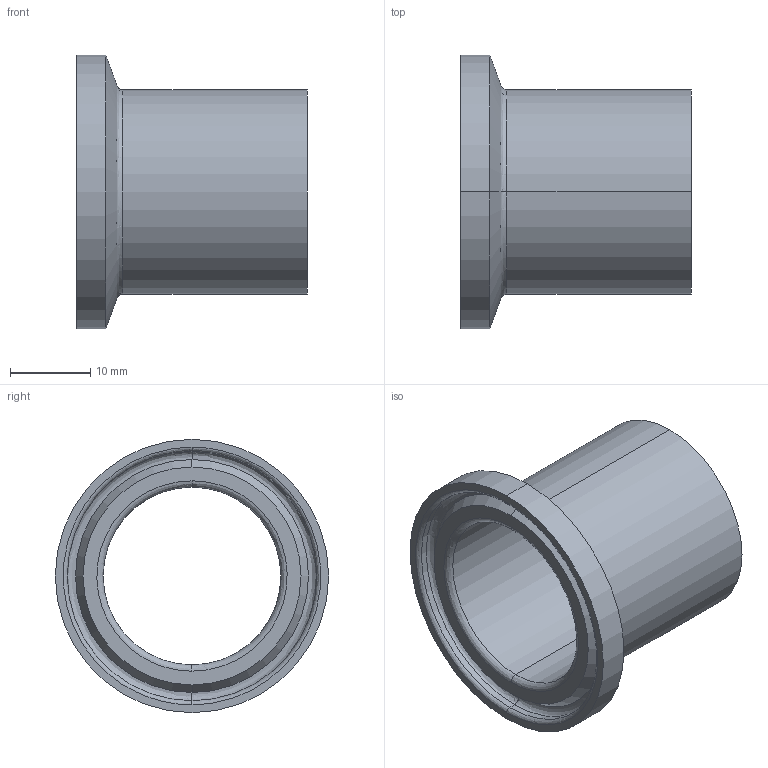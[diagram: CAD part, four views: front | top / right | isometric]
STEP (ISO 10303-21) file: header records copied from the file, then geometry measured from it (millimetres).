
FILE_DESCRIPTION (( 'STEP AP214' ), '1' );
FILE_NAME ('TEG14BM76L1.0_TYPE A.STEP', '2016-05-23T04:06:05', ( 'eran' ), ( '' ), 'SwSTEP 2.0', 'SolidWorks 2016', '' );
FILE_SCHEMA (( 'AUTOMOTIVE_DESIGN' ));
Length unit declared in the file: millimetre
Products named in the file (1): TEG14BM76L1.0_TYPE A
Bounding box: 28.7 x 34.01 x 34.01 mm (x, y, z)
Volume: 4814.6 mm3; surface area: 5460.2 mm2
Topology: 1 solids, 1 shells, 23 faces, 46 edges, 26 vertices
Faces by surface type: bspline 8, cylinder 8, cone 4, plane 3
Entity records: 724 total; most frequent: CARTESIAN_POINT 228, DIRECTION 104, ORIENTED_EDGE 92, AXIS2_PLACEMENT_3D 46, EDGE_CURVE 46, CIRCLE 30, VERTEX_POINT 26, EDGE_LOOP 26
